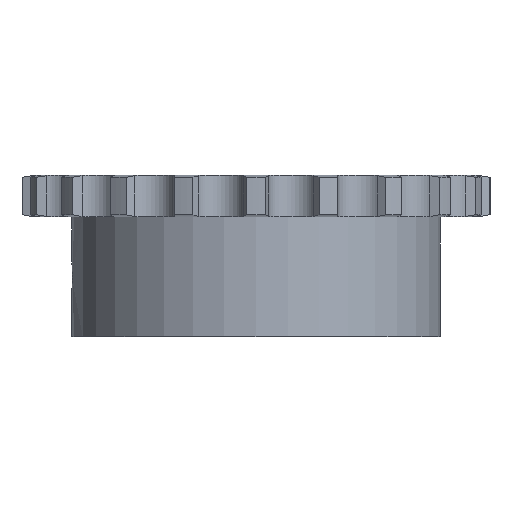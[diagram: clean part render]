
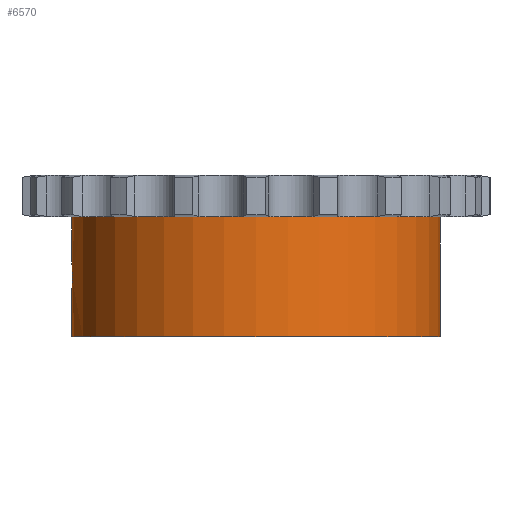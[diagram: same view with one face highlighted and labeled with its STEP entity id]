
A CAD part, front view. The second image highlights one B-rep face of the part: STEP entity #6570.
In plain terms, the highlighted cylindrical face has radius 32 mm (diameter 64 mm), a partial arc.
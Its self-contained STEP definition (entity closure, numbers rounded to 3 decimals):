
#1239=CARTESIAN_POINT('',(0.,0.,-3.6));
#1240=DIRECTION('',(0.,0.,1.));
#1241=DIRECTION('',(-1.,0.,0.));
#1242=AXIS2_PLACEMENT_3D('',#1239,#1240,#1241);
#3267=CARTESIAN_POINT('',(-32.,0.,
-11.));
#3289=DIRECTION('',(0.,0.,1.));
#3290=VECTOR('',#3289,20.8);
#3291=CARTESIAN_POINT('',(32.,0.,-24.4));
#3292=LINE('',#3291,#3290);
#3406=CARTESIAN_POINT('',(-32.,0.,
-11.));
#3407=CARTESIAN_POINT('',(-32.,-0.16,
-11.));
#3408=CARTESIAN_POINT('',(-31.998,-0.478,
-11.024));
#3409=CARTESIAN_POINT('',(-31.987,-0.956,
-11.136));
#3410=CARTESIAN_POINT('',(-31.97,-1.409,
-11.323));
#3411=CARTESIAN_POINT('',(-31.949,-1.822,
-11.575));
#3412=CARTESIAN_POINT('',(-31.926,-2.187,
-11.884));
#3413=CARTESIAN_POINT('',(-31.903,-2.498,
-12.246));
#3414=CARTESIAN_POINT('',(-31.882,-2.749,
-12.655));
#3415=CARTESIAN_POINT('',(-31.866,-2.93,
-13.094));
#3416=CARTESIAN_POINT('',(-31.856,-3.037,
-13.55));
#3417=CARTESIAN_POINT('',(-31.853,-3.06,
-13.85));
#3418=CARTESIAN_POINT('',(-31.853,-3.06,
-14.));
#3423=DIRECTION('',(0.,0.,1.));
#3424=VECTOR('',#3423,7.4);
#3425=CARTESIAN_POINT('',(-32.,0.,
-11.));
#3426=LINE('',#3425,#3424);
#3430=DIRECTION('',(0.,0.,1.));
#3431=VECTOR('',#3430,7.4);
#3432=CARTESIAN_POINT('',(-32.,0.,-24.4));
#3433=LINE('',#3432,#3431);
#3437=CARTESIAN_POINT('',(-31.853,-3.06,
-14.));
#3438=CARTESIAN_POINT('',(-31.853,-3.06,
-14.15));
#3439=CARTESIAN_POINT('',(-31.856,-3.037,
-14.449));
#3440=CARTESIAN_POINT('',(-31.866,-2.931,
-14.905));
#3441=CARTESIAN_POINT('',(-31.882,-2.75,
-15.344));
#3442=CARTESIAN_POINT('',(-31.903,-2.499,
-15.753));
#3443=CARTESIAN_POINT('',(-31.926,-2.187,
-16.115));
#3444=CARTESIAN_POINT('',(-31.949,-1.823,
-16.425));
#3445=CARTESIAN_POINT('',(-31.97,-1.41,
-16.677));
#3446=CARTESIAN_POINT('',(-31.987,-0.957,
-16.863));
#3447=CARTESIAN_POINT('',(-31.998,-0.478,
-16.976));
#3448=CARTESIAN_POINT('',(-32.,-0.16,
-17.));
#3449=CARTESIAN_POINT('',(-32.,0.,
-17.));
#3462=CARTESIAN_POINT('',(0.,0.,-24.4));
#3463=DIRECTION('',(0.,0.,-1.));
#3464=DIRECTION('',(1.,0.,0.));
#3465=AXIS2_PLACEMENT_3D('',#3462,#3463,#3464);
#3839=CARTESIAN_POINT('',(-32.,0.,-24.4));
#3840=CARTESIAN_POINT('',(32.,0.,-24.4));
#3841=VERTEX_POINT('',#3839);
#3842=VERTEX_POINT('',#3840);
#3843=CARTESIAN_POINT('',(32.,0.,-3.6));
#3844=VERTEX_POINT('',#3843);
#3845=CARTESIAN_POINT('',(-32.,0.,-3.6));
#3846=VERTEX_POINT('',#3845);
#4054=VERTEX_POINT('',#3267);
#4057=VERTEX_POINT('',#3418);
#4059=VERTEX_POINT('',#3449);
#6554=CARTESIAN_POINT('',(0.,0.,3.6));
#6555=DIRECTION('',(0.,0.,1.));
#6556=DIRECTION('',(1.,0.,0.));
#6557=AXIS2_PLACEMENT_3D('',#6554,#6555,#6556);
#6558=CYLINDRICAL_SURFACE('',#6557,32.);
#6559=ORIENTED_EDGE('',*,*,#6544,.F.);
#6560=ORIENTED_EDGE('',*,*,#6183,.T.);
#6561=ORIENTED_EDGE('',*,*,#5406,.T.);
#6562=ORIENTED_EDGE('',*,*,#6180,.F.);
#6564=ORIENTED_EDGE('',*,*,#6563,.T.);
#6565=ORIENTED_EDGE('',*,*,#6176,.T.);
#6567=ORIENTED_EDGE('',*,*,#6566,.F.);
#6568=EDGE_LOOP('',(#6559,#6560,#6561,#6562,#6564,#6565,#6567));
#6569=FACE_OUTER_BOUND('',#6568,.F.);
#6570=ADVANCED_FACE('',(#6569),#6558,.T.);
#1243=CIRCLE('',#1242,32.);
#3419=B_SPLINE_CURVE_WITH_KNOTS('',3,(#3406,#3407,#3408,#3409,#3410,#3411,#3412,
#3413,#3414,#3415,#3416,#3417,#3418),.UNSPECIFIED.,.F.,.F.,(4,1,1,1,1,1,1,1,1,1,
4),(0.,0.1,0.2,0.3,0.4,0.5,0.6,0.7,0.8,0.9,1.),
.UNSPECIFIED.);
#3450=B_SPLINE_CURVE_WITH_KNOTS('',3,(#3437,#3438,#3439,#3440,#3441,#3442,#3443,
#3444,#3445,#3446,#3447,#3448,#3449),.UNSPECIFIED.,.F.,.F.,(4,1,1,1,1,1,1,1,1,1,
4),(0.,0.1,0.2,0.3,0.4,0.5,0.6,0.7,0.8,0.9,1.),
.UNSPECIFIED.);
#3466=CIRCLE('',#3465,32.);
#5406=EDGE_CURVE('',#3846,#3844,#1243,.T.);
#6176=EDGE_CURVE('',#3841,#4059,#3433,.T.);
#6180=EDGE_CURVE('',#3842,#3844,#3292,.T.);
#6183=EDGE_CURVE('',#4054,#3846,#3426,.T.);
#6544=EDGE_CURVE('',#4054,#4057,#3419,.T.);
#6563=EDGE_CURVE('',#3842,#3841,#3466,.T.);
#6566=EDGE_CURVE('',#4057,#4059,#3450,.T.);
